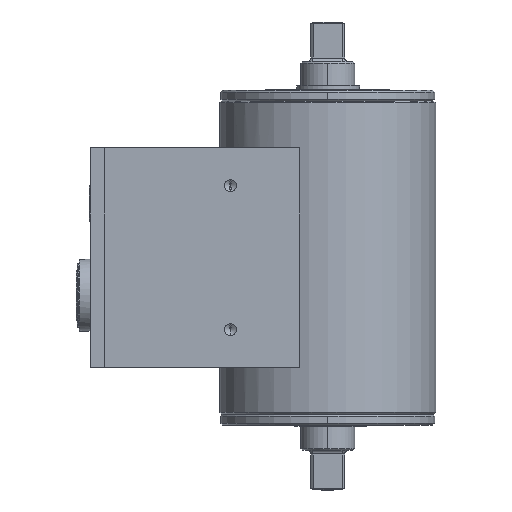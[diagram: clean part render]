
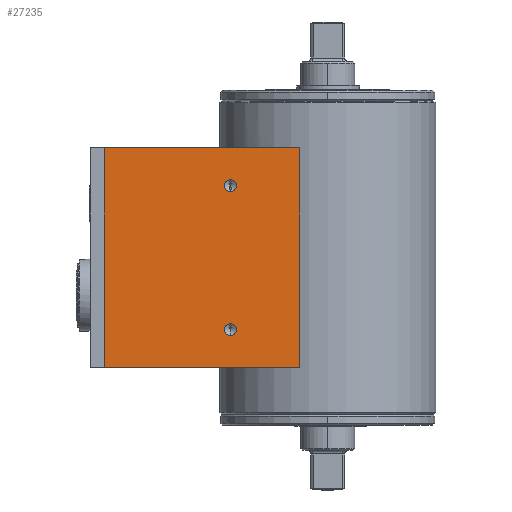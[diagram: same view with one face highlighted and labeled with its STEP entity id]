
A CAD part, left-side view. The second image highlights one B-rep face of the part: STEP entity #27235.
In plain terms, the highlighted planar face has unit normal (1, 0, 0).
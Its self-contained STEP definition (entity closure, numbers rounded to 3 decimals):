
#132 = DIRECTION ( 'NONE',  ( 0., 0., 1. ) ) ;
#355 = DIRECTION ( 'NONE',  ( 1., 0., 0. ) ) ;
#407 = EDGE_LOOP ( 'NONE', ( #27735, #17281, #23541, #18971 ) ) ;
#1248 = DIRECTION ( 'NONE',  ( -1., 0., 0. ) ) ;
#1476 = ORIENTED_EDGE ( 'NONE', *, *, #25791, .T. ) ;
#1852 = DIRECTION ( 'NONE',  ( -1., 0., 0. ) ) ;
#2218 = EDGE_CURVE ( 'NONE', #15239, #12621, #17360, .T. ) ;
#2662 = DIRECTION ( 'NONE',  ( 0., -1., 0. ) ) ;
#3133 = DIRECTION ( 'NONE',  ( 0., 0., 1. ) ) ;
#3281 = DIRECTION ( 'NONE',  ( 0., 0., 1. ) ) ;
#3432 = AXIS2_PLACEMENT_3D ( 'NONE', #10733, #13288, #3133 ) ;
#3616 = DIRECTION ( 'NONE',  ( 0., -1., 0. ) ) ;
#3902 = CARTESIAN_POINT ( 'NONE',  ( -30., 27., 50.5 ) ) ;
#4545 = CIRCLE ( 'NONE', #3432, 1.65 ) ;
#4794 = CARTESIAN_POINT ( 'NONE',  ( -30., 7.681, 61. ) ) ;
#5207 = VERTEX_POINT ( 'NONE', #12157 ) ;
#7013 = CARTESIAN_POINT ( 'NONE',  ( -30., 27., 48.85 ) ) ;
#7157 = FACE_OUTER_BOUND ( 'NONE', #407, .T. ) ;
#7480 = LINE ( 'NONE', #13330, #24396 ) ;
#9759 = ORIENTED_EDGE ( 'NONE', *, *, #22924, .T. ) ;
#9909 = DIRECTION ( 'NONE',  ( 0., 0., -1. ) ) ;
#10405 = ORIENTED_EDGE ( 'NONE', *, *, #2218, .T. ) ;
#10466 = CARTESIAN_POINT ( 'NONE',  ( -30., 0., 0. ) ) ;
#10733 = CARTESIAN_POINT ( 'NONE',  ( -30., 27., 50.5 ) ) ;
#11379 = CARTESIAN_POINT ( 'NONE',  ( -30., 27., 52.15 ) ) ;
#11390 = VERTEX_POINT ( 'NONE', #11379 ) ;
#11763 = VECTOR ( 'NONE', #2662, 1000. ) ;
#11897 = EDGE_LOOP ( 'NONE', ( #22013, #1476 ) ) ;
#12029 = CARTESIAN_POINT ( 'NONE',  ( -30., 27., 10.5 ) ) ;
#12157 = CARTESIAN_POINT ( 'NONE',  ( -30., 62., 0. ) ) ;
#12621 = VERTEX_POINT ( 'NONE', #19711 ) ;
#12877 = CARTESIAN_POINT ( 'NONE',  ( -30., 62., 61. ) ) ;
#13098 = CIRCLE ( 'NONE', #20667, 1.65 ) ;
#13254 = CIRCLE ( 'NONE', #14047, 1.65 ) ;
#13288 = DIRECTION ( 'NONE',  ( -1., 0., 0. ) ) ;
#13330 = CARTESIAN_POINT ( 'NONE',  ( -30., 7.681, 61. ) ) ;
#13680 = DIRECTION ( 'NONE',  ( 0., 0., 1. ) ) ;
#13749 = VERTEX_POINT ( 'NONE', #26658 ) ;
#14047 = AXIS2_PLACEMENT_3D ( 'NONE', #3902, #1852, #132 ) ;
#14852 = PLANE ( 'NONE',  #29504 ) ;
#14969 = CARTESIAN_POINT ( 'NONE',  ( -30., 7.681, 61. ) ) ;
#15239 = VERTEX_POINT ( 'NONE', #25580 ) ;
#17196 = EDGE_CURVE ( 'NONE', #18199, #31268, #24513, .T. ) ;
#17281 = ORIENTED_EDGE ( 'NONE', *, *, #24695, .F. ) ;
#17360 = CIRCLE ( 'NONE', #23124, 1.65 ) ;
#18072 = LINE ( 'NONE', #12877, #28526 ) ;
#18199 = VERTEX_POINT ( 'NONE', #31214 ) ;
#18698 = FACE_BOUND ( 'NONE', #11897, .T. ) ;
#18971 = ORIENTED_EDGE ( 'NONE', *, *, #19776, .T. ) ;
#19220 = CARTESIAN_POINT ( 'NONE',  ( -30., 7.681, 61. ) ) ;
#19540 = DIRECTION ( 'NONE',  ( 0., 0., 1. ) ) ;
#19711 = CARTESIAN_POINT ( 'NONE',  ( -30., 27., 12.15 ) ) ;
#19776 = EDGE_CURVE ( 'NONE', #13749, #31268, #7480, .T. ) ;
#19927 = EDGE_CURVE ( 'NONE', #11390, #21496, #13254, .T. ) ;
#20286 = EDGE_CURVE ( 'NONE', #5207, #13749, #18072, .T. ) ;
#20575 = LINE ( 'NONE', #10466, #11763 ) ;
#20667 = AXIS2_PLACEMENT_3D ( 'NONE', #12029, #28852, #29143 ) ;
#21496 = VERTEX_POINT ( 'NONE', #7013 ) ;
#22013 = ORIENTED_EDGE ( 'NONE', *, *, #19927, .T. ) ;
#22924 = EDGE_CURVE ( 'NONE', #12621, #15239, #13098, .T. ) ;
#23124 = AXIS2_PLACEMENT_3D ( 'NONE', #26145, #1248, #13680 ) ;
#23541 = ORIENTED_EDGE ( 'NONE', *, *, #20286, .T. ) ;
#24396 = VECTOR ( 'NONE', #3616, 1000. ) ;
#24513 = LINE ( 'NONE', #4794, #28409 ) ;
#24695 = EDGE_CURVE ( 'NONE', #5207, #18199, #20575, .T. ) ;
#25580 = CARTESIAN_POINT ( 'NONE',  ( -30., 27., 8.85 ) ) ;
#25791 = EDGE_CURVE ( 'NONE', #21496, #11390, #4545, .T. ) ;
#26145 = CARTESIAN_POINT ( 'NONE',  ( -30., 27., 10.5 ) ) ;
#26658 = CARTESIAN_POINT ( 'NONE',  ( -30., 62., 61. ) ) ;
#27235 = ADVANCED_FACE ( 'NONE', ( #7157, #28367, #18698 ), #14852, .T. ) ;
#27735 = ORIENTED_EDGE ( 'NONE', *, *, #17196, .F. ) ;
#28367 = FACE_BOUND ( 'NONE', #29109, .T. ) ;
#28409 = VECTOR ( 'NONE', #19540, 1000. ) ;
#28526 = VECTOR ( 'NONE', #3281, 1000. ) ;
#28852 = DIRECTION ( 'NONE',  ( -1., 0., 0. ) ) ;
#29109 = EDGE_LOOP ( 'NONE', ( #9759, #10405 ) ) ;
#29143 = DIRECTION ( 'NONE',  ( 0., 0., 1. ) ) ;
#29504 = AXIS2_PLACEMENT_3D ( 'NONE', #14969, #355, #9909 ) ;
#31214 = CARTESIAN_POINT ( 'NONE',  ( -30., 7.681, 0. ) ) ;
#31268 = VERTEX_POINT ( 'NONE', #19220 ) ;
